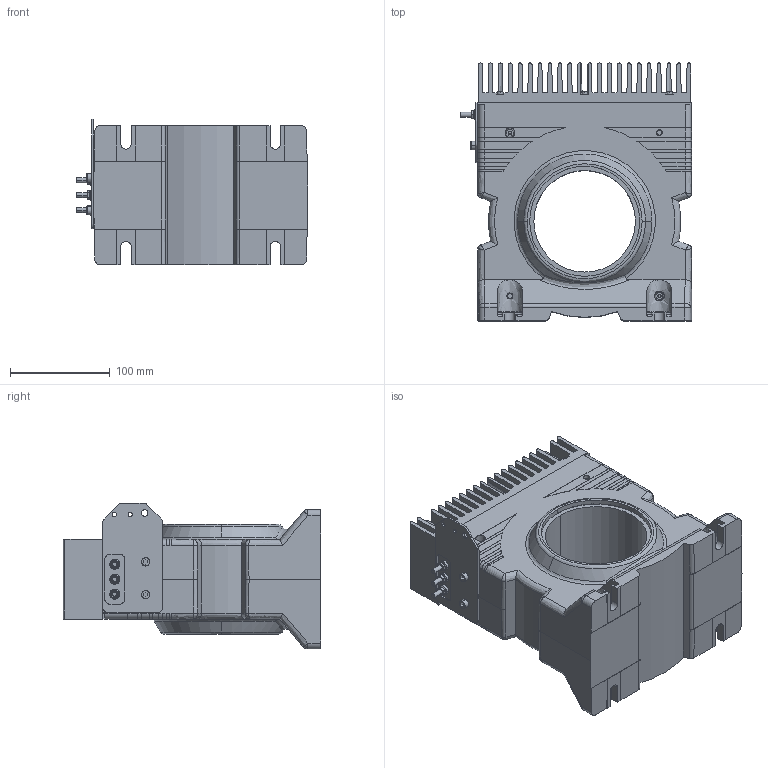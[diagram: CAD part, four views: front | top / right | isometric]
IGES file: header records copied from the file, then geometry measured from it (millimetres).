
Start section: Elysium IGES Interface
Global section: file name: C:\Users\PMO\Desktop\CDA CUSTOMER LT 4000-S_SP45.igs; native system: Creo Elements/Direct Modeling 20.1  10-Mar-2018; preprocessor: Creo Element/Direct IGES_3D V2.2; author: Unknown; organization: Unknown; date: 20201209.105723; units: millimetre
Bounding box: 232.4 x 259 x 146.51 mm (x, y, z)
Volume: 1393600 mm3; surface area: 628290.8 mm2
Topology: 1 solids, 12 shells, 2183 faces, 5751 edges, 3609 vertices
Faces by surface type: bspline 2183
